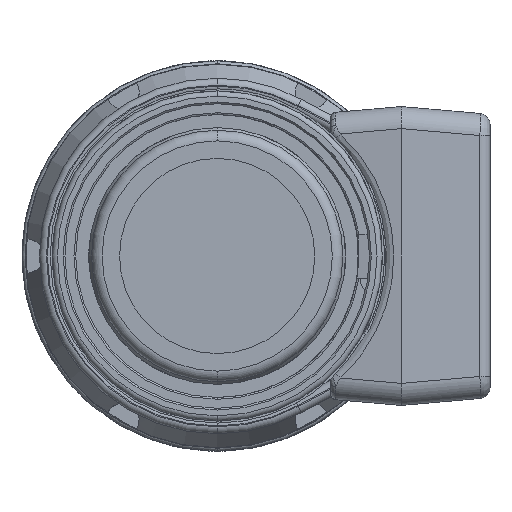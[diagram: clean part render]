
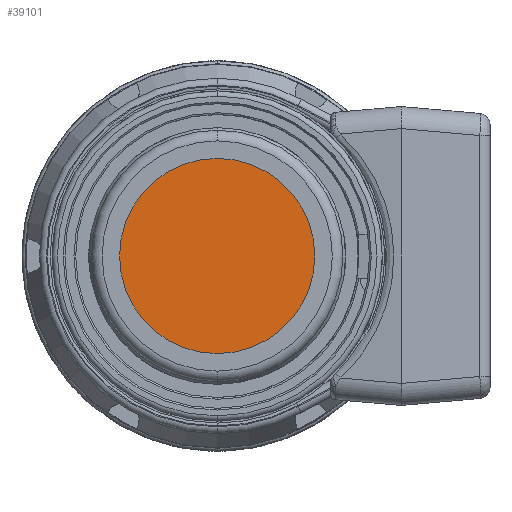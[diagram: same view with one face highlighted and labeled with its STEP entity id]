
A CAD part, left-side view. The second image highlights one B-rep face of the part: STEP entity #39101.
In plain terms, the highlighted planar face has unit normal (-1, 0, 0).
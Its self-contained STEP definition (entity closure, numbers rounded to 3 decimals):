
#1549 = DIRECTION ( 'NONE',  ( 1., 0., 0. ) ) ;
#3483 = EDGE_LOOP ( 'NONE', ( #34473, #30831 ) ) ;
#3584 = CARTESIAN_POINT ( 'NONE',  ( -43.784, 0., 14. ) ) ;
#5879 = CARTESIAN_POINT ( 'NONE',  ( -43.784, 0., 0. ) ) ;
#8991 = DIRECTION ( 'NONE',  ( 1., 0., 0. ) ) ;
#11974 = AXIS2_PLACEMENT_3D ( 'NONE', #46786, #1549, #27343 ) ;
#12428 = CARTESIAN_POINT ( 'NONE',  ( -43.784, 0., 0. ) ) ;
#16278 = FACE_OUTER_BOUND ( 'NONE', #3483, .T. ) ;
#26213 = CIRCLE ( 'NONE', #33284, 14. ) ;
#27343 = DIRECTION ( 'NONE',  ( 0., 0., -1. ) ) ;
#27985 = DIRECTION ( 'NONE',  ( 0., 0., -1. ) ) ;
#28709 = DIRECTION ( 'NONE',  ( 1., 0., 0. ) ) ;
#29353 = CARTESIAN_POINT ( 'NONE',  ( -43.784, 0., -14. ) ) ;
#30362 = VERTEX_POINT ( 'NONE', #29353 ) ;
#30756 = VERTEX_POINT ( 'NONE', #3584 ) ;
#30831 = ORIENTED_EDGE ( 'NONE', *, *, #47756, .F. ) ;
#30879 = AXIS2_PLACEMENT_3D ( 'NONE', #5879, #28709, #27985 ) ;
#31598 = DIRECTION ( 'NONE',  ( 0., 0., -1. ) ) ;
#33284 = AXIS2_PLACEMENT_3D ( 'NONE', #12428, #8991, #31598 ) ;
#34473 = ORIENTED_EDGE ( 'NONE', *, *, #41649, .F. ) ;
#36369 = CIRCLE ( 'NONE', #30879, 14. ) ;
#39101 = ADVANCED_FACE ( 'NONE', ( #16278 ), #42134, .F. ) ;
#41649 = EDGE_CURVE ( 'NONE', #30362, #30756, #36369, .T. ) ;
#42134 = PLANE ( 'NONE',  #11974 ) ;
#46786 = CARTESIAN_POINT ( 'NONE',  ( -43.784, 14., 0. ) ) ;
#47756 = EDGE_CURVE ( 'NONE', #30756, #30362, #26213, .T. ) ;
